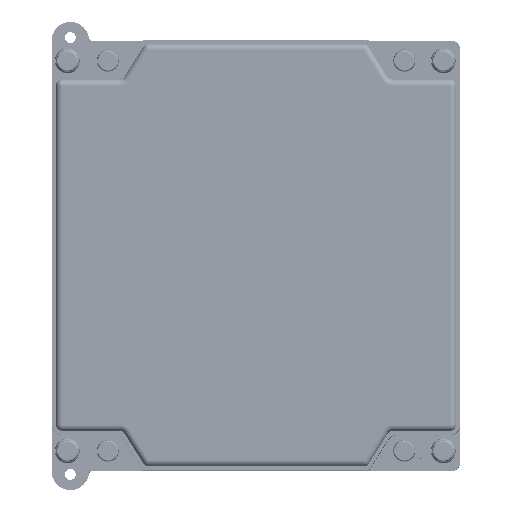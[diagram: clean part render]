
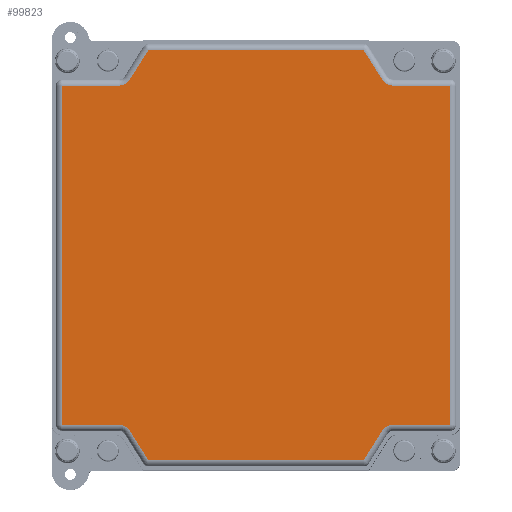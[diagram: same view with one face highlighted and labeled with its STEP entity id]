
A CAD part, top view. The second image highlights one B-rep face of the part: STEP entity #99823.
In plain terms, the highlighted planar face has unit normal (0, 0, 1).
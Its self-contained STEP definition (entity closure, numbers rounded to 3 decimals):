
#99823=ADVANCED_FACE('',(#202188),#202190,.T.);
#202188=FACE_BOUND('',#202189,.T.);
#202189=EDGE_LOOP('',(#280665,#280666,#280667,#280668,#280669,#280670,#280671,#280672,
#280673,#280674,#280675,#280676,#280677,#280678,#280679,#280680,#280681,#280682,
#280683,#280684,#280685,#280686,#280687,#280688));
#202190=PLANE('',#202191);
#202191=AXIS2_PLACEMENT_3D('',#202192,#202193,#202194);
#202192=CARTESIAN_POINT('',(0.,0.,156.5));
#202193=DIRECTION('',(0.,0.,1.));
#202194=DIRECTION('',(1.,0.,0.));
#280665=ORIENTED_EDGE('',*,*,#318170,.T.);
#280666=ORIENTED_EDGE('',*,*,#318217,.T.);
#280667=ORIENTED_EDGE('',*,*,#318215,.T.);
#280668=ORIENTED_EDGE('',*,*,#318213,.T.);
#280669=ORIENTED_EDGE('',*,*,#318211,.T.);
#280670=ORIENTED_EDGE('',*,*,#318209,.T.);
#280671=ORIENTED_EDGE('',*,*,#318207,.T.);
#280672=ORIENTED_EDGE('',*,*,#318205,.T.);
#280673=ORIENTED_EDGE('',*,*,#318203,.T.);
#280674=ORIENTED_EDGE('',*,*,#318201,.T.);
#280675=ORIENTED_EDGE('',*,*,#318199,.T.);
#280676=ORIENTED_EDGE('',*,*,#318197,.T.);
#280677=ORIENTED_EDGE('',*,*,#318195,.T.);
#280678=ORIENTED_EDGE('',*,*,#318193,.T.);
#280679=ORIENTED_EDGE('',*,*,#318191,.T.);
#280680=ORIENTED_EDGE('',*,*,#318189,.T.);
#280681=ORIENTED_EDGE('',*,*,#318187,.T.);
#280682=ORIENTED_EDGE('',*,*,#318185,.T.);
#280683=ORIENTED_EDGE('',*,*,#318183,.T.);
#280684=ORIENTED_EDGE('',*,*,#318181,.T.);
#280685=ORIENTED_EDGE('',*,*,#318179,.T.);
#280686=ORIENTED_EDGE('',*,*,#318177,.T.);
#280687=ORIENTED_EDGE('',*,*,#318175,.T.);
#280688=ORIENTED_EDGE('',*,*,#318173,.T.);
#318170=EDGE_CURVE('',#369541,#369542,#369543,.T.);
#318173=EDGE_CURVE('',#369546,#369541,#369547,.T.);
#318175=EDGE_CURVE('',#369549,#369546,#369550,.T.);
#318177=EDGE_CURVE('',#369552,#369549,#369553,.T.);
#318179=EDGE_CURVE('',#369555,#369552,#369556,.T.);
#318181=EDGE_CURVE('',#369558,#369555,#369559,.T.);
#318183=EDGE_CURVE('',#369561,#369558,#369562,.T.);
#318185=EDGE_CURVE('',#369564,#369561,#369565,.T.);
#318187=EDGE_CURVE('',#369567,#369564,#369568,.T.);
#318189=EDGE_CURVE('',#369570,#369567,#369571,.T.);
#318191=EDGE_CURVE('',#369573,#369570,#369574,.T.);
#318193=EDGE_CURVE('',#369576,#369573,#369577,.T.);
#318195=EDGE_CURVE('',#369579,#369576,#369580,.T.);
#318197=EDGE_CURVE('',#369582,#369579,#369583,.T.);
#318199=EDGE_CURVE('',#369585,#369582,#369586,.T.);
#318201=EDGE_CURVE('',#369588,#369585,#369589,.T.);
#318203=EDGE_CURVE('',#369591,#369588,#369592,.T.);
#318205=EDGE_CURVE('',#369594,#369591,#369595,.T.);
#318207=EDGE_CURVE('',#369597,#369594,#369598,.T.);
#318209=EDGE_CURVE('',#369600,#369597,#369601,.T.);
#318211=EDGE_CURVE('',#369603,#369600,#369604,.T.);
#318213=EDGE_CURVE('',#369606,#369603,#369607,.T.);
#318215=EDGE_CURVE('',#369609,#369606,#369610,.T.);
#318217=EDGE_CURVE('',#369542,#369609,#369612,.T.);
#369541=VERTEX_POINT('',#484697);
#369542=VERTEX_POINT('',#484698);
#369543=LINE('',#484699,#484700);
#369546=VERTEX_POINT('',#484710);
#369547=CIRCLE('',#484711,0.064);
#369549=VERTEX_POINT('',#484719);
#369550=LINE('',#484720,#484721);
#369552=VERTEX_POINT('',#484727);
#369553=CIRCLE('',#484728,3.936);
#369555=VERTEX_POINT('',#484736);
#369556=LINE('',#484737,#484738);
#369558=VERTEX_POINT('',#484744);
#369559=CIRCLE('',#484745,0.064);
#369561=VERTEX_POINT('',#484753);
#369562=LINE('',#484754,#484755);
#369564=VERTEX_POINT('',#484761);
#369565=CIRCLE('',#484762,0.064);
#369567=VERTEX_POINT('',#484770);
#369568=LINE('',#484771,#484772);
#369570=VERTEX_POINT('',#484778);
#369571=CIRCLE('',#484779,3.936);
#369573=VERTEX_POINT('',#484787);
#369574=LINE('',#484788,#484789);
#369576=VERTEX_POINT('',#484795);
#369577=CIRCLE('',#484796,0.064);
#369579=VERTEX_POINT('',#484804);
#369580=LINE('',#484805,#484806);
#369582=VERTEX_POINT('',#484812);
#369583=CIRCLE('',#484813,0.064);
#369585=VERTEX_POINT('',#484821);
#369586=LINE('',#484822,#484823);
#369588=VERTEX_POINT('',#484829);
#369589=CIRCLE('',#484830,3.936);
#369591=VERTEX_POINT('',#484838);
#369592=LINE('',#484839,#484840);
#369594=VERTEX_POINT('',#484846);
#369595=CIRCLE('',#484847,0.064);
#369597=VERTEX_POINT('',#484855);
#369598=LINE('',#484856,#484857);
#369600=VERTEX_POINT('',#484863);
#369601=CIRCLE('',#484864,0.064);
#369603=VERTEX_POINT('',#484872);
#369604=LINE('',#484873,#484874);
#369606=VERTEX_POINT('',#484880);
#369607=CIRCLE('',#484881,3.936);
#369609=VERTEX_POINT('',#484889);
#369610=LINE('',#484890,#484891);
#369612=CIRCLE('',#484897,0.064);
#484697=CARTESIAN_POINT('',(-62.214,54.3,156.5));
#484698=CARTESIAN_POINT('',(-62.214,-54.3,156.5));
#484699=CARTESIAN_POINT('',(-62.214,54.3,156.5));
#484700=VECTOR('',#484701,1.);
#484701=DIRECTION('',(0.,-1.,0.));
#484710=CARTESIAN_POINT('',(-62.15,54.364,156.5));
#484711=AXIS2_PLACEMENT_3D('',#484712,#484713,#484714);
#484712=CARTESIAN_POINT('',(-62.15,54.3,156.5));
#484713=DIRECTION('',(0.,0.,1.));
#484714=DIRECTION('',(0.,1.,0.));
#484719=CARTESIAN_POINT('',(-43.822,54.364,156.5));
#484720=CARTESIAN_POINT('',(-43.822,54.364,156.5));
#484721=VECTOR('',#484722,1.);
#484722=DIRECTION('',(-1.,0.,0.));
#484727=CARTESIAN_POINT('',(-40.492,56.201,156.5));
#484728=AXIS2_PLACEMENT_3D('',#484729,#484730,#484731);
#484729=CARTESIAN_POINT('',(-43.822,58.3,156.5));
#484730=DIRECTION('',(0.,0.,-1.));
#484731=DIRECTION('',(0.846,-0.533,0.));
#484736=CARTESIAN_POINT('',(-34.513,65.684,156.5));
#484737=CARTESIAN_POINT('',(-34.513,65.684,156.5));
#484738=VECTOR('',#484739,1.);
#484739=DIRECTION('',(-0.533,-0.846,0.));
#484744=CARTESIAN_POINT('',(-34.46,65.714,156.5));
#484745=AXIS2_PLACEMENT_3D('',#484746,#484747,#484748);
#484746=CARTESIAN_POINT('',(-34.46,65.65,156.5));
#484747=DIRECTION('',(0.,0.,1.));
#484748=DIRECTION('',(0.,1.,0.));
#484753=CARTESIAN_POINT('',(34.46,65.714,156.5));
#484754=CARTESIAN_POINT('',(34.46,65.714,156.5));
#484755=VECTOR('',#484756,1.);
#484756=DIRECTION('',(-1.,0.,0.));
#484761=CARTESIAN_POINT('',(34.513,65.684,156.5));
#484762=AXIS2_PLACEMENT_3D('',#484763,#484764,#484765);
#484763=CARTESIAN_POINT('',(34.46,65.65,156.5));
#484764=DIRECTION('',(0.,0.,1.));
#484765=DIRECTION('',(0.846,0.533,0.));
#484770=CARTESIAN_POINT('',(40.492,56.201,156.5));
#484771=CARTESIAN_POINT('',(40.492,56.201,156.5));
#484772=VECTOR('',#484773,1.);
#484773=DIRECTION('',(-0.533,0.846,0.));
#484778=CARTESIAN_POINT('',(43.822,54.364,156.5));
#484779=AXIS2_PLACEMENT_3D('',#484780,#484781,#484782);
#484780=CARTESIAN_POINT('',(43.822,58.3,156.5));
#484781=DIRECTION('',(0.,0.,-1.));
#484782=DIRECTION('',(0.,-1.,0.));
#484787=CARTESIAN_POINT('',(62.15,54.364,156.5));
#484788=CARTESIAN_POINT('',(62.15,54.364,156.5));
#484789=VECTOR('',#484790,1.);
#484790=DIRECTION('',(-1.,0.,0.));
#484795=CARTESIAN_POINT('',(62.214,54.3,156.5));
#484796=AXIS2_PLACEMENT_3D('',#484797,#484798,#484799);
#484797=CARTESIAN_POINT('',(62.15,54.3,156.5));
#484798=DIRECTION('',(0.,0.,1.));
#484799=DIRECTION('',(1.,0.,0.));
#484804=CARTESIAN_POINT('',(62.214,-54.3,156.5));
#484805=CARTESIAN_POINT('',(62.214,-54.3,156.5));
#484806=VECTOR('',#484807,1.);
#484807=DIRECTION('',(0.,1.,0.));
#484812=CARTESIAN_POINT('',(62.15,-54.364,156.5));
#484813=AXIS2_PLACEMENT_3D('',#484814,#484815,#484816);
#484814=CARTESIAN_POINT('',(62.15,-54.3,156.5));
#484815=DIRECTION('',(0.,0.,1.));
#484816=DIRECTION('',(0.,-1.,0.));
#484821=CARTESIAN_POINT('',(43.822,-54.364,156.5));
#484822=CARTESIAN_POINT('',(43.822,-54.364,156.5));
#484823=VECTOR('',#484824,1.);
#484824=DIRECTION('',(1.,0.,0.));
#484829=CARTESIAN_POINT('',(40.492,-56.201,156.5));
#484830=AXIS2_PLACEMENT_3D('',#484831,#484832,#484833);
#484831=CARTESIAN_POINT('',(43.822,-58.3,156.5));
#484832=DIRECTION('',(0.,0.,-1.));
#484833=DIRECTION('',(-0.846,0.533,0.));
#484838=CARTESIAN_POINT('',(34.513,-65.684,156.5));
#484839=CARTESIAN_POINT('',(34.513,-65.684,156.5));
#484840=VECTOR('',#484841,1.);
#484841=DIRECTION('',(0.533,0.846,0.));
#484846=CARTESIAN_POINT('',(34.46,-65.714,156.5));
#484847=AXIS2_PLACEMENT_3D('',#484848,#484849,#484850);
#484848=CARTESIAN_POINT('',(34.46,-65.65,156.5));
#484849=DIRECTION('',(0.,0.,1.));
#484850=DIRECTION('',(0.,-1.,0.));
#484855=CARTESIAN_POINT('',(-34.46,-65.714,156.5));
#484856=CARTESIAN_POINT('',(-34.46,-65.714,156.5));
#484857=VECTOR('',#484858,1.);
#484858=DIRECTION('',(1.,0.,0.));
#484863=CARTESIAN_POINT('',(-34.513,-65.684,156.5));
#484864=AXIS2_PLACEMENT_3D('',#484865,#484866,#484867);
#484865=CARTESIAN_POINT('',(-34.46,-65.65,156.5));
#484866=DIRECTION('',(0.,0.,1.));
#484867=DIRECTION('',(-0.846,-0.533,0.));
#484872=CARTESIAN_POINT('',(-40.492,-56.201,156.5));
#484873=CARTESIAN_POINT('',(-40.492,-56.201,156.5));
#484874=VECTOR('',#484875,1.);
#484875=DIRECTION('',(0.533,-0.846,0.));
#484880=CARTESIAN_POINT('',(-43.822,-54.364,156.5));
#484881=AXIS2_PLACEMENT_3D('',#484882,#484883,#484884);
#484882=CARTESIAN_POINT('',(-43.822,-58.3,156.5));
#484883=DIRECTION('',(0.,0.,-1.));
#484884=DIRECTION('',(0.,1.,0.));
#484889=CARTESIAN_POINT('',(-62.15,-54.364,156.5));
#484890=CARTESIAN_POINT('',(-62.15,-54.364,156.5));
#484891=VECTOR('',#484892,1.);
#484892=DIRECTION('',(1.,0.,0.));
#484897=AXIS2_PLACEMENT_3D('',#484898,#484899,#484900);
#484898=CARTESIAN_POINT('',(-62.15,-54.3,156.5));
#484899=DIRECTION('',(0.,0.,1.));
#484900=DIRECTION('',(-1.,0.,0.));
